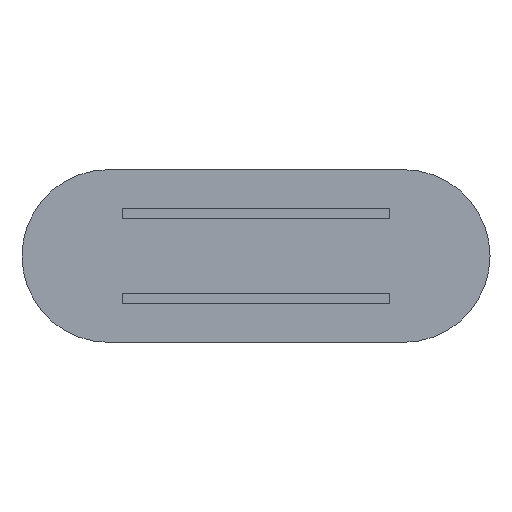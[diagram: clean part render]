
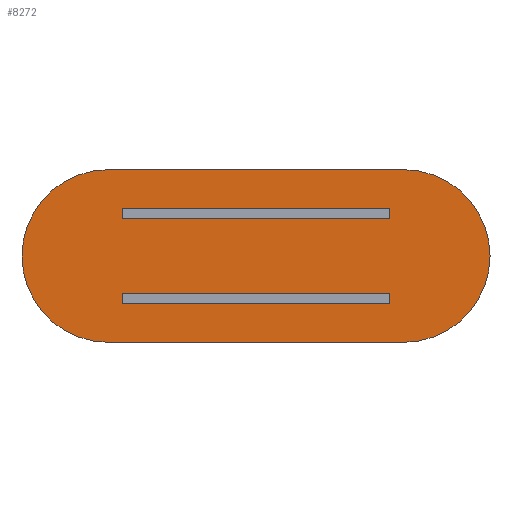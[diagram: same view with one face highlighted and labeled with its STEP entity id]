
A CAD part, top view. The second image highlights one B-rep face of the part: STEP entity #8272.
In plain terms, the highlighted planar face has unit normal (0, 0, 1).
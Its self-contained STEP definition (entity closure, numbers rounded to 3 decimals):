
#8 = ORIENTED_EDGE ( 'NONE', *, *, #3392, .T. ) ;
#64 = EDGE_CURVE ( 'NONE', #9595, #1186, #4787, .T. ) ;
#132 = DIRECTION ( 'NONE',  ( 0., 1., 0. ) ) ;
#266 = LINE ( 'NONE', #4252, #7496 ) ;
#624 = EDGE_CURVE ( 'NONE', #4702, #8233, #7631, .T. ) ;
#635 = CARTESIAN_POINT ( 'NONE',  ( -13.25, 7.75, 0.8 ) ) ;
#745 = CARTESIAN_POINT ( 'NONE',  ( 0., -4.25, 0.8 ) ) ;
#1089 = VECTOR ( 'NONE', #6072, 1000. ) ;
#1186 = VERTEX_POINT ( 'NONE', #9236 ) ;
#1494 = VERTEX_POINT ( 'NONE', #2222 ) ;
#1522 = EDGE_CURVE ( 'NONE', #2558, #1186, #5240, .T. ) ;
#1592 = ORIENTED_EDGE ( 'NONE', *, *, #4864, .T. ) ;
#1623 = AXIS2_PLACEMENT_3D ( 'NONE', #6089, #5265, #3752 ) ;
#1662 = ORIENTED_EDGE ( 'NONE', *, *, #8783, .T. ) ;
#1802 = VERTEX_POINT ( 'NONE', #3660 ) ;
#1895 = ORIENTED_EDGE ( 'NONE', *, *, #3065, .F. ) ;
#2115 = LINE ( 'NONE', #7622, #8253 ) ;
#2193 = VECTOR ( 'NONE', #3055, 1000. ) ;
#2222 = CARTESIAN_POINT ( 'NONE',  ( -12., 3.35, 0.8 ) ) ;
#2345 = LINE ( 'NONE', #8937, #6679 ) ;
#2526 = ORIENTED_EDGE ( 'NONE', *, *, #624, .F. ) ;
#2530 = VECTOR ( 'NONE', #4878, 1000. ) ;
#2558 = VERTEX_POINT ( 'NONE', #5601 ) ;
#2617 = CIRCLE ( 'NONE', #1623, 7.75 ) ;
#2649 = ORIENTED_EDGE ( 'NONE', *, *, #8578, .F. ) ;
#2957 = CARTESIAN_POINT ( 'NONE',  ( 0., -7.75, 0.8 ) ) ;
#3010 = VECTOR ( 'NONE', #4003, 1000. ) ;
#3055 = DIRECTION ( 'NONE',  ( 0., 1., 0. ) ) ;
#3065 = EDGE_CURVE ( 'NONE', #1802, #4702, #2617, .T. ) ;
#3104 = AXIS2_PLACEMENT_3D ( 'NONE', #3313, #9642, #5713 ) ;
#3160 = LINE ( 'NONE', #745, #3010 ) ;
#3313 = CARTESIAN_POINT ( 'NONE',  ( -13.25, 0., 0.8 ) ) ;
#3387 = CARTESIAN_POINT ( 'NONE',  ( 12., 0., 0.8 ) ) ;
#3392 = EDGE_CURVE ( 'NONE', #9595, #4086, #3160, .T. ) ;
#3417 = DIRECTION ( 'NONE',  ( 0., 1., 0. ) ) ;
#3425 = DIRECTION ( 'NONE',  ( 0., 1., 0. ) ) ;
#3660 = CARTESIAN_POINT ( 'NONE',  ( 13.25, 7.75, 0.8 ) ) ;
#3752 = DIRECTION ( 'NONE',  ( -1., 0., 0. ) ) ;
#3888 = CARTESIAN_POINT ( 'NONE',  ( -12., -4.25, 0.8 ) ) ;
#3915 = CARTESIAN_POINT ( 'NONE',  ( -12., 4.25, 0.8 ) ) ;
#4003 = DIRECTION ( 'NONE',  ( -1., 0., 0. ) ) ;
#4086 = VERTEX_POINT ( 'NONE', #3888 ) ;
#4090 = ORIENTED_EDGE ( 'NONE', *, *, #6623, .F. ) ;
#4161 = LINE ( 'NONE', #7477, #2530 ) ;
#4252 = CARTESIAN_POINT ( 'NONE',  ( -12., 0., 0.8 ) ) ;
#4331 = EDGE_LOOP ( 'NONE', ( #9863, #8, #8894, #9410 ) ) ;
#4634 = VERTEX_POINT ( 'NONE', #8676 ) ;
#4666 = EDGE_CURVE ( 'NONE', #5405, #4634, #2345, .T. ) ;
#4702 = VERTEX_POINT ( 'NONE', #8257 ) ;
#4724 = DIRECTION ( 'NONE',  ( 0., 0., 1. ) ) ;
#4787 = LINE ( 'NONE', #3387, #6983 ) ;
#4864 = EDGE_CURVE ( 'NONE', #1494, #6783, #10151, .T. ) ;
#4878 = DIRECTION ( 'NONE',  ( 1., 0., 0. ) ) ;
#5055 = EDGE_LOOP ( 'NONE', ( #8545, #10076, #1592, #1662 ) ) ;
#5240 = LINE ( 'NONE', #5292, #6587 ) ;
#5265 = DIRECTION ( 'NONE',  ( 0., 0., -1. ) ) ;
#5292 = CARTESIAN_POINT ( 'NONE',  ( 0., -3.35, 0.8 ) ) ;
#5405 = VERTEX_POINT ( 'NONE', #8589 ) ;
#5433 = CIRCLE ( 'NONE', #3104, 7.75 ) ;
#5450 = EDGE_LOOP ( 'NONE', ( #1895, #4090, #2649, #2526 ) ) ;
#5601 = CARTESIAN_POINT ( 'NONE',  ( -12., -3.35, 0.8 ) ) ;
#5620 = CARTESIAN_POINT ( 'NONE',  ( 0., 8.06, 0.8 ) ) ;
#5713 = DIRECTION ( 'NONE',  ( 0., 1., 0. ) ) ;
#5715 = CARTESIAN_POINT ( 'NONE',  ( 12., -4.25, 0.8 ) ) ;
#5873 = EDGE_CURVE ( 'NONE', #4086, #2558, #266, .T. ) ;
#6009 = DIRECTION ( 'NONE',  ( -1., 0., 0. ) ) ;
#6072 = DIRECTION ( 'NONE',  ( -1., 0., 0. ) ) ;
#6089 = CARTESIAN_POINT ( 'NONE',  ( 13.25, 0., 0.8 ) ) ;
#6391 = PLANE ( 'NONE',  #7428 ) ;
#6549 = FACE_BOUND ( 'NONE', #4331, .T. ) ;
#6587 = VECTOR ( 'NONE', #8402, 1000. ) ;
#6623 = EDGE_CURVE ( 'NONE', #8437, #1802, #4161, .T. ) ;
#6679 = VECTOR ( 'NONE', #3425, 1000. ) ;
#6783 = VERTEX_POINT ( 'NONE', #3915 ) ;
#6796 = DIRECTION ( 'NONE',  ( 1., 0., 0. ) ) ;
#6983 = VECTOR ( 'NONE', #132, 1000. ) ;
#7172 = FACE_OUTER_BOUND ( 'NONE', #5450, .T. ) ;
#7401 = EDGE_CURVE ( 'NONE', #5405, #1494, #8936, .T. ) ;
#7428 = AXIS2_PLACEMENT_3D ( 'NONE', #5620, #4724, #9657 ) ;
#7477 = CARTESIAN_POINT ( 'NONE',  ( 0., 7.75, 0.8 ) ) ;
#7496 = VECTOR ( 'NONE', #3417, 1000. ) ;
#7622 = CARTESIAN_POINT ( 'NONE',  ( 0., 4.25, 0.8 ) ) ;
#7631 = LINE ( 'NONE', #2957, #1089 ) ;
#7902 = CARTESIAN_POINT ( 'NONE',  ( -13.25, -7.75, 0.8 ) ) ;
#8059 = FACE_BOUND ( 'NONE', #5055, .T. ) ;
#8233 = VERTEX_POINT ( 'NONE', #7902 ) ;
#8253 = VECTOR ( 'NONE', #6796, 1000. ) ;
#8257 = CARTESIAN_POINT ( 'NONE',  ( 13.25, -7.75, 0.8 ) ) ;
#8272 = ADVANCED_FACE ( 'NONE', ( #8059, #6549, #7172 ), #6391, .T. ) ;
#8402 = DIRECTION ( 'NONE',  ( 1., 0., 0. ) ) ;
#8437 = VERTEX_POINT ( 'NONE', #635 ) ;
#8545 = ORIENTED_EDGE ( 'NONE', *, *, #4666, .F. ) ;
#8578 = EDGE_CURVE ( 'NONE', #8233, #8437, #5433, .T. ) ;
#8589 = CARTESIAN_POINT ( 'NONE',  ( 12., 3.35, 0.8 ) ) ;
#8666 = CARTESIAN_POINT ( 'NONE',  ( -12., 0., 0.8 ) ) ;
#8676 = CARTESIAN_POINT ( 'NONE',  ( 12., 4.25, 0.8 ) ) ;
#8783 = EDGE_CURVE ( 'NONE', #6783, #4634, #2115, .T. ) ;
#8894 = ORIENTED_EDGE ( 'NONE', *, *, #5873, .T. ) ;
#8936 = LINE ( 'NONE', #9939, #8992 ) ;
#8937 = CARTESIAN_POINT ( 'NONE',  ( 12., 0., 0.8 ) ) ;
#8992 = VECTOR ( 'NONE', #6009, 1000. ) ;
#9236 = CARTESIAN_POINT ( 'NONE',  ( 12., -3.35, 0.8 ) ) ;
#9410 = ORIENTED_EDGE ( 'NONE', *, *, #1522, .T. ) ;
#9595 = VERTEX_POINT ( 'NONE', #5715 ) ;
#9642 = DIRECTION ( 'NONE',  ( 0., 0., -1. ) ) ;
#9657 = DIRECTION ( 'NONE',  ( 1., 0., 0. ) ) ;
#9863 = ORIENTED_EDGE ( 'NONE', *, *, #64, .F. ) ;
#9939 = CARTESIAN_POINT ( 'NONE',  ( 0., 3.35, 0.8 ) ) ;
#10076 = ORIENTED_EDGE ( 'NONE', *, *, #7401, .T. ) ;
#10151 = LINE ( 'NONE', #8666, #2193 ) ;
